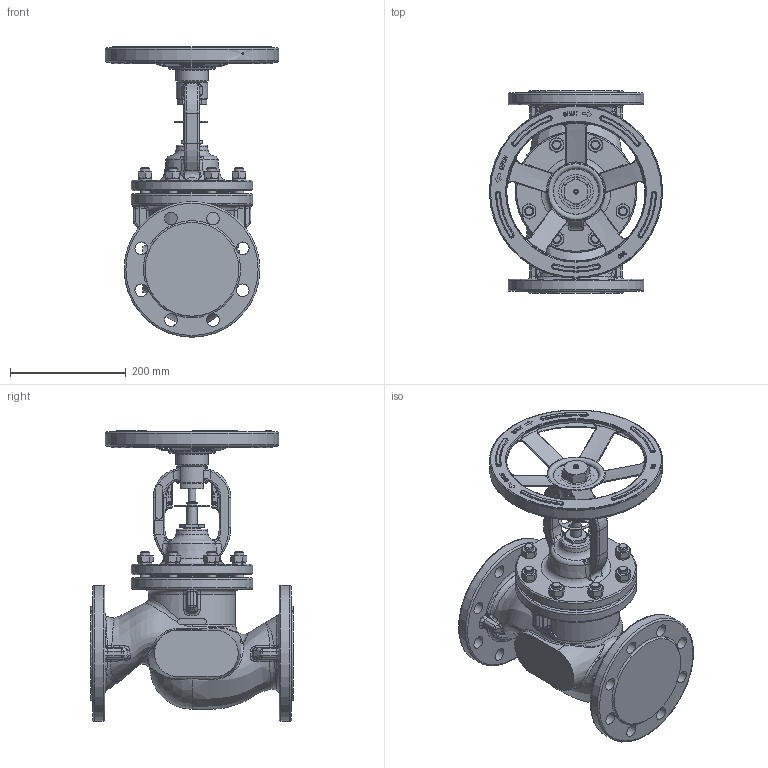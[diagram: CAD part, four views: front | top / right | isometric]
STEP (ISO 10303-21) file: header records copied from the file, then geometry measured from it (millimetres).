
FILE_DESCRIPTION(/* description */ (''),/* implementation_level */ '2;1');
FILE_NAME(/* name */ 'ZV226E_DN100_PN40.stp',/* time_stamp */ '2014-10-01T05:39:27+02:00',/* author */ (''),/* organization */ (''),/* preprocessor_version */ 'ST-DEVELOPER v15',/* originating_system */ 'SIEMENS PLM Software NX 8.5',/* authorisation */ '');
FILE_SCHEMA (('AP203_CONFIGURATION_CONTROLLED_3D_DESIGN_OF_MECHANICAL_PARTS_AND_ASSEMBLIES_MIM_LF { 1 0 10303 403 2 1 2}'));
Products named in the file (1): adam0D0CD2F3qxe1
Bounding box: 300 x 350 x 502.7 mm (x, y, z)
Volume: 9827560.2 mm3; surface area: 708350.1 mm2
Topology: 1 solids, 1 shells, 1277 faces, 3105 edges, 1832 vertices
Faces by surface type: plane 405, cylinder 259, bspline 240, torus 156, cone 152, sphere 38, extrusion 27
Full cylindrical faces by diameter (mm): 3 x4, 4 x1, 6 x4, 7 x1, 13 x1, 16 x25, 18 x2, 22 x16, 27.7 x1, 38 x1, 40 x1, 50 x2, 51 x1, 51.2 x1, 54 x1, 55.5 x1, 142 x1, 150 x1, 152 x1, 210 x2, 235 x2, 240 x1, 243 x1, 297 x1, 300 x1
Entity records: 56895 total; most frequent: CARTESIAN_POINT 30198, ORIENTED_EDGE 5740, DIRECTION 5030, EDGE_CURVE 2870, AXIS2_PLACEMENT_3D 2119, VERTEX_POINT 1771, EDGE_LOOP 1533, ADVANCED_FACE 1276
